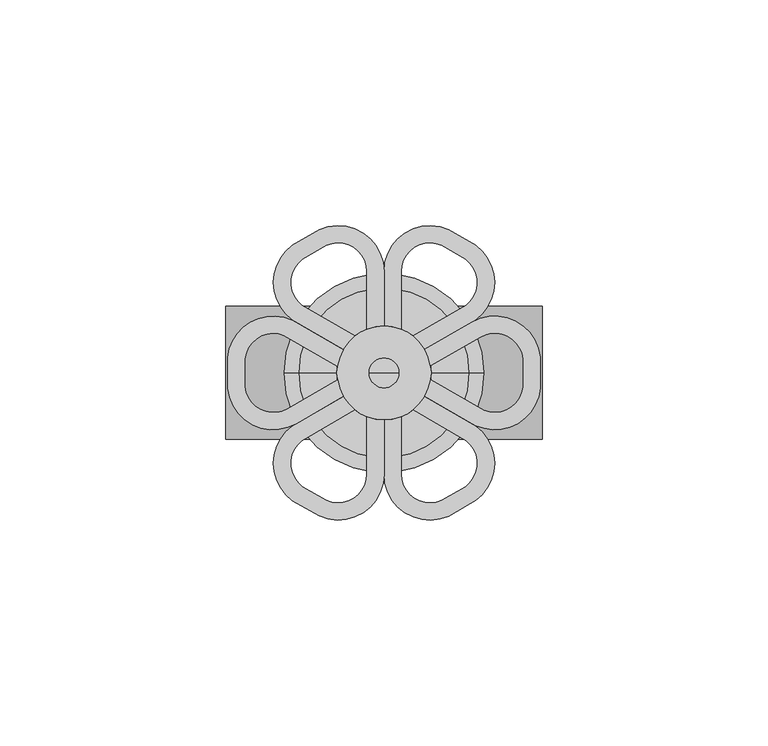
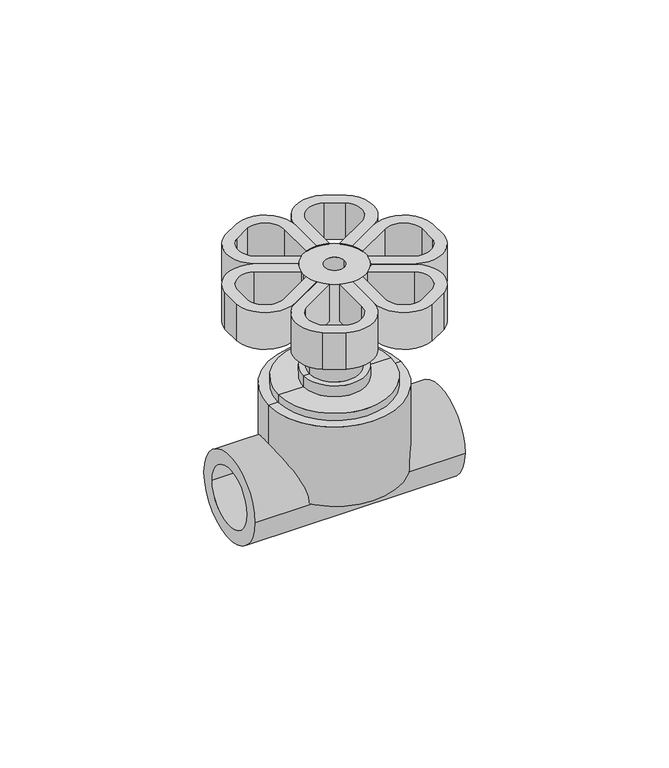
"""IFC4 building model written with IfcOpenShell, lengths in millimetres: valve geometry, Aquatherm - Screw Down Stop Globe Valve : NON-POTABLE."""

from ifc_helpers import new_model, si_unit, point, frame, origin, origin_with_axes, origin_2d, place, context, project, spatial, polyline, circle_curve, trimmed, segment, composite_curve, outline, extrude, source, transform, mapped, element, save
from ifc_brep_helpers import plane_surface, cylinder_surface, revolved_surface, advanced_brep


def valve_2058e438(model_context):
    return source(origin(), model_context, "Body", "SolidModel", [
        advanced_brep(
        [(19.445201, 11.226692, 57.15), (34.6099022, 3.4437403, 57.15), (34.6331331, -3.4380483, 57.15), (20.3544492, -11.6772462, 57.15), (9.0506259, -5.1509807, 57.15), (10.3130833, -1.4804518, 57.15), (22.0748393, -8.2711048, 57.15), (30.8247999, -3.0585974, 57.15), (30.8433147, 3.0701977, 57.15), (21.350201, 7.9271352, 57.15), (10.2985375, 1.5464544, 57.15), (9.0187886, 5.207, 57.15), (19.445201, 11.226692, 70.104), (9.0187886, 5.207, 70.104), (10.2985375, 1.5464544, 70.104), (21.350201, 7.9271352, 70.104), (30.8185012, 3.0677369, 70.104), (30.8419054, -3.0603017, 70.104), (22.0748393, -8.2711048, 70.104), (10.3130833, -1.4804518, 70.104), (9.0506259, -5.1509807, 70.104), (20.3544492, -11.6772462, 70.104), (34.6160276, -3.436344, 70.104), (34.6347157, 3.4462011, 70.104)],
        [
            (0, 1, circle_curve(frame((24.5166058, 2.4427611, 57.15), z_axis=(0.0, 0.0, -1.0), x_axis=(0.5000000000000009, -0.8660254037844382, 0.0)), 10.1428098)),
            (1, 2, circle_curve(frame((0.0065867, 0.0120369, 57.15), z_axis=(0.0, 0.0, -1.0), x_axis=(0.5000000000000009, -0.8660254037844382, 0.0)), 34.798)),
            (2, 3, circle_curve(frame((24.5231925, -2.4307241, 57.15), z_axis=(0.0, 0.0, -1.0), x_axis=(0.5000000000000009, -0.8660254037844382, 0.0)), 10.1428098)),
            (3, 4),
            (4, 5, circle_curve(frame((0.0065867, 0.0120369, 57.15), z_axis=(0.0, 0.0, 1.0), x_axis=(0.48061422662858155, 0.876932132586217, 0.0)), 10.414)),
            (5, 6),
            (6, 7, circle_curve(frame((24.5231925, -2.4307241, 57.15), z_axis=(0.0, 0.0, 1.0), x_axis=(0.5000000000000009, -0.8660254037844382, 0.0)), 6.3328098)),
            (7, 8, circle_curve(frame((0.0065867, 0.0120369, 57.15), z_axis=(0.0, 0.0, 1.0), x_axis=(0.5000000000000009, -0.8660254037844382, 0.0)), 30.988)),
            (8, 9, circle_curve(frame((24.5166058, 2.4427611, 57.15), z_axis=(0.0, 0.0, 1.0), x_axis=(0.5000000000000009, -0.8660254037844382, 0.0)), 6.3328098)),
            (9, 10),
            (10, 11, circle_curve(frame((0.0, 0.0, 57.15), z_axis=(0.0, 0.0, 1.0), x_axis=(0.5000000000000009, -0.8660254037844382, 0.0)), 10.414)),
            (11, 0),
            (12, 13),
            (13, 14, circle_curve(frame((0.0, 0.0, 70.104), z_axis=(0.0, 0.0, -1.0), x_axis=(0.5000000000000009, -0.8660254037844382, 0.0)), 10.414)),
            (14, 15),
            (15, 16, circle_curve(frame((24.5166058, 2.4427611, 70.104), z_axis=(0.0, 0.0, -1.0), x_axis=(0.5000000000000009, -0.8660254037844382, 0.0)), 6.3328098)),
            (16, 17, circle_curve(frame((0.0065867, 0.0120369, 70.104), z_axis=(0.0, 0.0, -1.0), x_axis=(0.5000000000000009, -0.8660254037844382, 0.0)), 30.988)),
            (17, 18, circle_curve(frame((24.5231925, -2.4307241, 70.104), z_axis=(0.0, 0.0, -1.0), x_axis=(0.5000000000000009, -0.8660254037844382, 0.0)), 6.3328098)),
            (18, 19),
            (19, 20, circle_curve(frame((0.0065867, 0.0120369, 70.104), z_axis=(0.0, 0.0, -1.0), x_axis=(0.48061422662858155, 0.876932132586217, 0.0)), 10.414)),
            (20, 21),
            (21, 22, circle_curve(frame((24.5231925, -2.4307241, 70.104), z_axis=(0.0, 0.0, 1.0), x_axis=(0.5000000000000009, -0.8660254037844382, 0.0)), 10.1428098)),
            (22, 23, circle_curve(frame((0.0065867, 0.0120369, 70.104), z_axis=(0.0, 0.0, 1.0), x_axis=(0.5000000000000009, -0.8660254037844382, 0.0)), 34.798)),
            (23, 12, circle_curve(frame((24.5166058, 2.4427611, 70.104), z_axis=(0.0, 0.0, 1.0), x_axis=(0.5000000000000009, -0.8660254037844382, 0.0)), 10.1428098)),
            (11, 13),
            (12, 0),
            (10, 14),
            (9, 15),
            (8, 16),
            (7, 17),
            (6, 18),
            (5, 19),
            (4, 20),
            (3, 21),
            (2, 22),
            (1, 23),
        ],
        [
            plane_surface(frame((29.5880107, -6.3411699, 57.15), z_axis=(0.0, 0.0, -1.0), x_axis=(-0.8660254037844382, -0.5000000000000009, 0.0))),
            plane_surface(frame((29.5880107, -6.3411699, 70.104), z_axis=(0.0, 0.0, 1.0), x_axis=(0.8660254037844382, 0.5000000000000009, 0.0))),
            plane_surface(frame((9.0187886, 5.207, 57.15), z_axis=(-0.4999999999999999, 0.8660254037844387, 0.0), x_axis=(0.0, 0.0, 1.0))),
            revolved_surface(polyline([(5.207000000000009, -9.018788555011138, 70.104), (5.207000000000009, -9.018788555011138, 57.15)]), (0.0, 0.0, 70.104), (0.0, 0.0, 1.0)),
            plane_surface(frame((21.350201, 7.9271352, 57.15), z_axis=(0.49999999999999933, -0.8660254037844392, 0.0), x_axis=(0.0, 0.0, 1.0))),
            revolved_surface(polyline([(27.683010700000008, -3.041613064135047, 70.104), (27.683010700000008, -3.041613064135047, 57.15)]), (24.5166058, 2.4427611, 70.104), (0.0, 0.0, 1.0)),
            revolved_surface(polyline([(15.500586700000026, -26.82435831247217, 70.104), (15.500586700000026, -26.82435831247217, 57.15)]), (0.0065867, 0.0120369, 70.104), (0.0, 0.0, 1.0)),
            revolved_surface(polyline([(27.689597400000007, -7.915098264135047, 70.104), (27.689597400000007, -7.915098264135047, 57.15)]), (24.5231925, -2.4307241, 70.104), (0.0, 0.0, 1.0)),
            plane_surface(frame((10.3130833, -1.4804518, 57.15), z_axis=(0.49999999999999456, 0.8660254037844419, 0.0), x_axis=(0.0, 0.0, 1.0))),
            revolved_surface(polyline([(5.011703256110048, 9.144408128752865, 70.104), (5.011703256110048, 9.144408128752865, 57.15)]), (0.0065867, 0.0120369, 70.104), (0.0, 0.0, 1.0)),
            plane_surface(frame((20.3544492, -11.6772462, 57.15), z_axis=(-0.4999999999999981, -0.8660254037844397, 0.0), x_axis=(0.0, 0.0, 1.0))),
            cylinder_surface(frame((24.5231925, -2.4307241, 70.104), z_axis=(0.0, 0.0, -1.0), x_axis=(0.5000000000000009, -0.8660254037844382, 0.0)), 10.1428098),
            cylinder_surface(frame((0.0065867, 0.0120369, 70.104), z_axis=(0.0, 0.0, -1.0), x_axis=(0.5000000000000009, -0.8660254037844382, 0.0)), 34.798),
            cylinder_surface(frame((24.5166058, 2.4427611, 70.104), z_axis=(0.0, 0.0, -1.0), x_axis=(0.5000000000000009, -0.8660254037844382, 0.0)), 10.1428098),
        ],
        [
            (0, [[1, 2, 3, 4, 5, 6, 7, 8, 9, 10, 11, 12]]),
            (1, [[13, 14, 15, 16, 17, 18, 19, 20, 21, 22, 23, 24]]),
            (2, [[-12, 25, -13, 26]]),
            (3, [[-11, 27, -14, -25]]),
            (4, [[-10, 28, -15, -27]]),
            (5, [[-9, 29, -16, -28]]),
            (6, [[-8, 30, -17, -29]]),
            (7, [[-7, 31, -18, -30]]),
            (8, [[-6, 32, -19, -31]]),
            (9, [[-5, 33, -20, -32]]),
            (10, [[-4, 34, -21, -33]]),
            (11, [[-3, 35, -22, -34]]),
            (12, [[-2, 36, -23, -35]]),
            (13, [[-1, -26, -24, -36]]),
        ],
    ),
        advanced_brep(
        [(-19.445201, -11.226692, 57.15), (-34.6099022, -3.4437403, 57.15), (-34.6331331, 3.4380483, 57.15), (-20.3544492, 11.6772462, 57.15), (-9.0506259, 5.1509807, 57.15), (-10.3130833, 1.4804518, 57.15), (-22.0748393, 8.2711048, 57.15), (-30.8247999, 3.0585974, 57.15), (-30.8433147, -3.0701977, 57.15), (-21.350201, -7.9271352, 57.15), (-10.2985375, -1.5464544, 57.15), (-9.0187886, -5.207, 57.15), (-19.445201, -11.226692, 70.104), (-9.0187886, -5.207, 70.104), (-10.2985375, -1.5464544, 70.104), (-21.350201, -7.9271352, 70.104), (-30.8185012, -3.0677369, 70.104), (-30.8419054, 3.0603017, 70.104), (-22.0748393, 8.2711048, 70.104), (-10.3130833, 1.4804518, 70.104), (-9.0506259, 5.1509807, 70.104), (-20.3544492, 11.6772462, 70.104), (-34.6160276, 3.436344, 70.104), (-34.6347157, -3.4462011, 70.104)],
        [
            (0, 1, circle_curve(frame((-24.5166058, -2.4427611, 57.15), z_axis=(0.0, 0.0, -1.0), x_axis=(-0.5000000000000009, 0.8660254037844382, 0.0)), 10.1428098)),
            (1, 2, circle_curve(frame((-0.0065867, -0.0120369, 57.15), z_axis=(0.0, 0.0, -1.0), x_axis=(-0.5000000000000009, 0.8660254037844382, 0.0)), 34.798)),
            (2, 3, circle_curve(frame((-24.5231925, 2.4307241, 57.15), z_axis=(0.0, 0.0, -1.0), x_axis=(-0.5000000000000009, 0.8660254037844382, 0.0)), 10.1428098)),
            (3, 4),
            (4, 5, circle_curve(frame((-0.0065867, -0.0120369, 57.15), z_axis=(0.0, 0.0, 1.0), x_axis=(-0.48061422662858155, -0.876932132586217, 0.0)), 10.414)),
            (5, 6),
            (6, 7, circle_curve(frame((-24.5231925, 2.4307241, 57.15), z_axis=(0.0, 0.0, 1.0), x_axis=(-0.5000000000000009, 0.8660254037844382, 0.0)), 6.3328098)),
            (7, 8, circle_curve(frame((-0.0065867, -0.0120369, 57.15), z_axis=(0.0, 0.0, 1.0), x_axis=(-0.5000000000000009, 0.8660254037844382, 0.0)), 30.988)),
            (8, 9, circle_curve(frame((-24.5166058, -2.4427611, 57.15), z_axis=(0.0, 0.0, 1.0), x_axis=(-0.5000000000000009, 0.8660254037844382, 0.0)), 6.3328098)),
            (9, 10),
            (10, 11, circle_curve(frame((0.0, 0.0, 57.15), z_axis=(0.0, 0.0, 1.0), x_axis=(-0.5000000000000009, 0.8660254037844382, 0.0)), 10.414)),
            (11, 0),
            (12, 13),
            (13, 14, circle_curve(frame((0.0, 0.0, 70.104), z_axis=(0.0, 0.0, -1.0), x_axis=(-0.5000000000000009, 0.8660254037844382, 0.0)), 10.414)),
            (14, 15),
            (15, 16, circle_curve(frame((-24.5166058, -2.4427611, 70.104), z_axis=(0.0, 0.0, -1.0), x_axis=(-0.5000000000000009, 0.8660254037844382, 0.0)), 6.3328098)),
            (16, 17, circle_curve(frame((-0.0065867, -0.0120369, 70.104), z_axis=(0.0, 0.0, -1.0), x_axis=(-0.5000000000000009, 0.8660254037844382, 0.0)), 30.988)),
            (17, 18, circle_curve(frame((-24.5231925, 2.4307241, 70.104), z_axis=(0.0, 0.0, -1.0), x_axis=(-0.5000000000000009, 0.8660254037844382, 0.0)), 6.3328098)),
            (18, 19),
            (19, 20, circle_curve(frame((-0.0065867, -0.0120369, 70.104), z_axis=(0.0, 0.0, -1.0), x_axis=(-0.48061422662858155, -0.876932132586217, 0.0)), 10.414)),
            (20, 21),
            (21, 22, circle_curve(frame((-24.5231925, 2.4307241, 70.104), z_axis=(0.0, 0.0, 1.0), x_axis=(-0.5000000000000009, 0.8660254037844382, 0.0)), 10.1428098)),
            (22, 23, circle_curve(frame((-0.0065867, -0.0120369, 70.104), z_axis=(0.0, 0.0, 1.0), x_axis=(-0.5000000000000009, 0.8660254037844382, 0.0)), 34.798)),
            (23, 12, circle_curve(frame((-24.5166058, -2.4427611, 70.104), z_axis=(0.0, 0.0, 1.0), x_axis=(-0.5000000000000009, 0.8660254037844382, 0.0)), 10.1428098)),
            (0, 12),
            (23, 1),
            (22, 2),
            (21, 3),
            (20, 4),
            (19, 5),
            (18, 6),
            (17, 7),
            (16, 8),
            (15, 9),
            (14, 10),
            (13, 11),
        ],
        [
            plane_surface(frame((-29.5880107, 6.3411699, 57.15), z_axis=(0.0, 0.0, -1.0), x_axis=(0.8660254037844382, 0.5000000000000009, 0.0))),
            plane_surface(frame((-29.5880107, 6.3411699, 70.104), z_axis=(0.0, 0.0, 1.0), x_axis=(-0.8660254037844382, -0.5000000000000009, 0.0))),
            cylinder_surface(frame((-24.5166058, -2.4427611, 70.104), z_axis=(0.0, 0.0, -1.0), x_axis=(-0.5000000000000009, 0.8660254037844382, 0.0)), 10.1428098),
            cylinder_surface(frame((-0.0065867, -0.0120369, 70.104), z_axis=(0.0, 0.0, -1.0), x_axis=(-0.5000000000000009, 0.8660254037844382, 0.0)), 34.798),
            cylinder_surface(frame((-24.5231925, 2.4307241, 70.104), z_axis=(0.0, 0.0, -1.0), x_axis=(-0.5000000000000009, 0.8660254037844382, 0.0)), 10.1428098),
            plane_surface(frame((-20.3544492, 11.6772462, 57.15), z_axis=(0.4999999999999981, 0.8660254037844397, 0.0), x_axis=(0.0, 0.0, 1.0))),
            revolved_surface(polyline([(-5.011703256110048, -9.144408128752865, 70.104), (-5.011703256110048, -9.144408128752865, 57.15)]), (-0.0065867, -0.0120369, 70.104), (0.0, 0.0, 1.0)),
            plane_surface(frame((-10.3130833, 1.4804518, 57.15), z_axis=(-0.49999999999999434, -0.8660254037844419, 0.0), x_axis=(0.0, 0.0, 1.0))),
            revolved_surface(polyline([(-27.689597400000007, 7.915098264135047, 70.104), (-27.689597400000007, 7.915098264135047, 57.15)]), (-24.5231925, 2.4307241, 70.104), (0.0, 0.0, 1.0)),
            revolved_surface(polyline([(-15.500586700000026, 26.82435831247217, 70.104), (-15.500586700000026, 26.82435831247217, 57.15)]), (-0.0065867, -0.0120369, 70.104), (0.0, 0.0, 1.0)),
            revolved_surface(polyline([(-27.683010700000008, 3.041613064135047, 70.104), (-27.683010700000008, 3.041613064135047, 57.15)]), (-24.5166058, -2.4427611, 70.104), (0.0, 0.0, 1.0)),
            plane_surface(frame((-21.350201, -7.9271352, 57.15), z_axis=(-0.49999999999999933, 0.866025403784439, 0.0), x_axis=(0.0, 0.0, 1.0))),
            revolved_surface(polyline([(-5.207000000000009, 9.018788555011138, 70.104), (-5.207000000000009, 9.018788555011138, 57.15)]), (0.0, 0.0, 70.104), (0.0, 0.0, 1.0)),
            plane_surface(frame((-9.0187886, -5.207, 57.15), z_axis=(0.49999999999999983, -0.8660254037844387, 0.0), x_axis=(0.0, 0.0, 1.0))),
        ],
        [
            (0, [[1, 2, 3, 4, 5, 6, 7, 8, 9, 10, 11, 12]]),
            (1, [[13, 14, 15, 16, 17, 18, 19, 20, 21, 22, 23, 24]]),
            (2, [[-1, 25, -24, 26]]),
            (3, [[-2, -26, -23, 27]]),
            (4, [[-3, -27, -22, 28]]),
            (5, [[-4, -28, -21, 29]]),
            (6, [[-5, -29, -20, 30]]),
            (7, [[-6, -30, -19, 31]]),
            (8, [[-7, -31, -18, 32]]),
            (9, [[-8, -32, -17, 33]]),
            (10, [[-9, -33, -16, 34]]),
            (11, [[-10, -34, -15, 35]]),
            (12, [[-11, -35, -14, 36]]),
            (13, [[-12, -36, -13, -25]]),
        ],
    ),
        advanced_brep(
        [(0.0, 22.453384, 57.15), (0.0, 10.414, 57.15), (-3.81, 9.6920223, 57.15), (-3.81, 22.453384, 57.15), (-12.7525125, 28.2234734, 57.15), (-18.0712517, 25.1797227, 57.15), (-18.2004066, 14.9818193, 57.15), (-6.4386506, 8.1911663, 57.15), (-8.9861931, 5.2625816, 57.15), (-20.2900164, 11.788847, 57.15), (-20.2839749, 28.2601873, 57.15), (-14.3328602, 31.7176442, 57.15), (0.0, 22.453384, 70.104), (-14.3225845, 31.6949246, 70.104), (-20.2940037, 28.2741489, 70.104), (-20.2900164, 11.788847, 70.104), (-8.9861931, 5.2625816, 70.104), (-6.4386506, 8.1911663, 70.104), (-18.2004066, 14.9818193, 70.104), (-18.061223, 25.165761, 70.104), (-12.7627882, 28.246193, 70.104), (-3.81, 22.453384, 70.104), (-3.81, 9.6920223, 70.104), (0.0, 10.414, 70.104)],
        [
            (0, 1),
            (1, 2, circle_curve(frame((0.0, 0.0, 57.15), z_axis=(0.0, 0.0, 1.0), x_axis=(-1.0, 0.0, 0.0)), 10.414)),
            (2, 3),
            (3, 4, circle_curve(frame((-10.1428098, 22.453384, 57.15), z_axis=(0.0, 0.0, 1.0), x_axis=(-1.0, 0.0, 0.0)), 6.3328098)),
            (4, 5, circle_curve(frame((0.0071309, 0.0117227, 57.15), z_axis=(0.0, 0.0, 1.0), x_axis=(-1.0, 0.0, 0.0)), 30.988)),
            (5, 6, circle_curve(frame((-14.3666651, 20.0223456, 57.15), z_axis=(0.0, 0.0, 1.0), x_axis=(-1.0, 0.0, 0.0)), 6.3328098)),
            (6, 7),
            (7, 8, circle_curve(frame((0.0071309, 0.0117227, 57.15), z_axis=(0.0, 0.0, 1.0), x_axis=(0.519138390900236, 0.8546901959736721, 0.0)), 10.414)),
            (8, 9),
            (9, 10, circle_curve(frame((-14.3666651, 20.0223456, 57.15), z_axis=(0.0, 0.0, -1.0), x_axis=(-1.0, 0.0, 0.0)), 10.1428098)),
            (10, 11, circle_curve(frame((0.0071309, 0.0117227, 57.15), z_axis=(0.0, 0.0, -1.0), x_axis=(-1.0, 0.0, 0.0)), 34.798)),
            (11, 0, circle_curve(frame((-10.1428098, 22.453384, 57.15), z_axis=(0.0, 0.0, -1.0), x_axis=(-1.0, 0.0, 0.0)), 10.1428098)),
            (12, 13, circle_curve(frame((-10.1428098, 22.453384, 70.104), z_axis=(0.0, 0.0, 1.0), x_axis=(-1.0, 0.0, 0.0)), 10.1428098)),
            (13, 14, circle_curve(frame((0.0071309, 0.0117227, 70.104), z_axis=(0.0, 0.0, 1.0), x_axis=(-1.0, 0.0, 0.0)), 34.798)),
            (14, 15, circle_curve(frame((-14.3666651, 20.0223456, 70.104), z_axis=(0.0, 0.0, 1.0), x_axis=(-1.0, 0.0, 0.0)), 10.1428098)),
            (15, 16),
            (16, 17, circle_curve(frame((0.0071309, 0.0117227, 70.104), z_axis=(0.0, 0.0, -1.0), x_axis=(0.519138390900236, 0.8546901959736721, 0.0)), 10.414)),
            (17, 18),
            (18, 19, circle_curve(frame((-14.3666651, 20.0223456, 70.104), z_axis=(0.0, 0.0, -1.0), x_axis=(-1.0, 0.0, 0.0)), 6.3328098)),
            (19, 20, circle_curve(frame((0.0071309, 0.0117227, 70.104), z_axis=(0.0, 0.0, -1.0), x_axis=(-1.0, 0.0, 0.0)), 30.988)),
            (20, 21, circle_curve(frame((-10.1428098, 22.453384, 70.104), z_axis=(0.0, 0.0, -1.0), x_axis=(-1.0, 0.0, 0.0)), 6.3328098)),
            (21, 22),
            (22, 23, circle_curve(frame((0.0, 0.0, 70.104), z_axis=(0.0, 0.0, -1.0), x_axis=(-1.0, 0.0, 0.0)), 10.414)),
            (23, 12),
            (11, 13),
            (12, 0),
            (10, 14),
            (9, 15),
            (8, 16),
            (7, 17),
            (6, 18),
            (5, 19),
            (4, 20),
            (3, 21),
            (2, 22),
            (1, 23),
        ],
        [
            plane_surface(frame((0.0, 8.255, 57.15), z_axis=(0.0, 0.0, -1.0), x_axis=(0.0, -1.0, 0.0))),
            plane_surface(frame((0.0, 8.255, 70.104), z_axis=(0.0, 0.0, 1.0), x_axis=(0.0, 1.0, 0.0))),
            cylinder_surface(frame((-10.1428098, 22.453384, 70.104), z_axis=(0.0, 0.0, -1.0), x_axis=(-1.0, 0.0, 0.0)), 10.1428098),
            cylinder_surface(frame((0.0071309, 0.0117227, 70.104), z_axis=(0.0, 0.0, -1.0), x_axis=(-1.0, 0.0, 0.0)), 34.798),
            cylinder_surface(frame((-14.3666651, 20.0223456, 70.104), z_axis=(0.0, 0.0, -1.0), x_axis=(-1.0, 0.0, 0.0)), 10.1428098),
            plane_surface(frame((-8.9861931, 5.2625816, 57.15), z_axis=(-0.5000000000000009, -0.8660254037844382, 0.0), x_axis=(0.0, 0.0, 1.0))),
            revolved_surface(polyline([(5.413438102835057, 8.912466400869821, 70.104), (5.413438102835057, 8.912466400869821, 57.14999999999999)]), (0.0071309, 0.0117227, 70.104), (0.0, 0.0, 1.0000000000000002)),
            plane_surface(frame((-18.2004066, 14.9818193, 57.15), z_axis=(0.5000000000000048, 0.8660254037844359, 0.0), x_axis=(0.0, 0.0, 1.0))),
            revolved_surface(polyline([(-20.6994749, 20.0223456, 70.104), (-20.6994749, 20.0223456, 57.15)]), (-14.3666651, 20.0223456, 70.104), (0.0, 0.0, 1.0)),
            revolved_surface(polyline([(-30.9808691, 0.0117227, 70.104), (-30.9808691, 0.0117227, 57.15)]), (0.0071309, 0.0117227, 70.104), (0.0, 0.0, 1.0)),
            revolved_surface(polyline([(-16.4756196, 22.453384, 70.104), (-16.4756196, 22.453384, 57.15)]), (-10.1428098, 22.453384, 70.104), (0.0, 0.0, 1.0)),
            plane_surface(frame((-3.81, 9.6920223, 57.15), z_axis=(-1.0, 0.0, 0.0), x_axis=(0.0, 0.0, 1.0))),
            revolved_surface(polyline([(-10.414, 0.0, 70.104), (-10.414, 0.0, 57.15)]), (0.0, 0.0, 70.104), (0.0, 0.0, 1.0)),
            plane_surface(frame((0.0, 22.453384, 57.15), z_axis=(1.0, 0.0, 0.0), x_axis=(0.0, 0.0, 1.0))),
        ],
        [
            (0, [[1, 2, 3, 4, 5, 6, 7, 8, 9, 10, 11, 12]]),
            (1, [[13, 14, 15, 16, 17, 18, 19, 20, 21, 22, 23, 24]]),
            (2, [[-12, 25, -13, 26]]),
            (3, [[-11, 27, -14, -25]]),
            (4, [[-10, 28, -15, -27]]),
            (5, [[-9, 29, -16, -28]]),
            (6, [[-8, 30, -17, -29]]),
            (7, [[-7, 31, -18, -30]]),
            (8, [[-6, 32, -19, -31]]),
            (9, [[-5, 33, -20, -32]]),
            (10, [[-4, 34, -21, -33]]),
            (11, [[-3, 35, -22, -34]]),
            (12, [[-2, 36, -23, -35]]),
            (13, [[-1, -26, -24, -36]]),
        ],
    ),
        advanced_brep(
        [(0.0, 22.453384, 57.15), (14.3225845, 31.6949246, 57.15), (20.2940037, 28.2741489, 57.15), (20.2900164, 11.788847, 57.15), (8.9861931, 5.2625816, 57.15), (6.4386506, 8.1911663, 57.15), (18.2004066, 14.9818193, 57.15), (18.061223, 25.165761, 57.15), (12.7627882, 28.246193, 57.15), (3.81, 22.453384, 57.15), (3.81, 9.6920223, 57.15), (0.0, 10.414, 57.15), (0.0, 22.453384, 70.104), (0.0, 10.414, 70.104), (3.81, 9.6920223, 70.104), (3.81, 22.453384, 70.104), (12.7525125, 28.2234734, 70.104), (18.0712517, 25.1797227, 70.104), (18.2004066, 14.9818193, 70.104), (6.4386506, 8.1911663, 70.104), (8.9861931, 5.2625816, 70.104), (20.2900164, 11.788847, 70.104), (20.2839749, 28.2601873, 70.104), (14.3328602, 31.7176442, 70.104)],
        [
            (0, 1, circle_curve(frame((10.1428098, 22.453384, 57.15), z_axis=(0.0, 0.0, -1.0), x_axis=(1.0, 0.0, 0.0)), 10.1428098)),
            (1, 2, circle_curve(frame((-0.0071309, 0.0117227, 57.15), z_axis=(0.0, 0.0, -1.0), x_axis=(1.0, 0.0, 0.0)), 34.798)),
            (2, 3, circle_curve(frame((14.3666651, 20.0223456, 57.15), z_axis=(0.0, 0.0, -1.0), x_axis=(1.0, 0.0, 0.0)), 10.1428098)),
            (3, 4),
            (4, 5, circle_curve(frame((-0.0071309, 0.0117227, 57.15), z_axis=(0.0, 0.0, 1.0), x_axis=(-0.519138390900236, 0.8546901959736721, 0.0)), 10.414)),
            (5, 6),
            (6, 7, circle_curve(frame((14.3666651, 20.0223456, 57.15), z_axis=(0.0, 0.0, 1.0), x_axis=(1.0, 0.0, 0.0)), 6.3328098)),
            (7, 8, circle_curve(frame((-0.0071309, 0.0117227, 57.15), z_axis=(0.0, 0.0, 1.0), x_axis=(1.0, 0.0, 0.0)), 30.988)),
            (8, 9, circle_curve(frame((10.1428098, 22.453384, 57.15), z_axis=(0.0, 0.0, 1.0), x_axis=(1.0, 0.0, 0.0)), 6.3328098)),
            (9, 10),
            (10, 11, circle_curve(frame((0.0, 0.0, 57.15), z_axis=(0.0, 0.0, 1.0), x_axis=(1.0, 0.0, 0.0)), 10.414)),
            (11, 0),
            (12, 13),
            (13, 14, circle_curve(frame((0.0, 0.0, 70.104), z_axis=(0.0, 0.0, -1.0), x_axis=(1.0, 0.0, 0.0)), 10.414)),
            (14, 15),
            (15, 16, circle_curve(frame((10.1428098, 22.453384, 70.104), z_axis=(0.0, 0.0, -1.0), x_axis=(1.0, 0.0, 0.0)), 6.3328098)),
            (16, 17, circle_curve(frame((-0.0071309, 0.0117227, 70.104), z_axis=(0.0, 0.0, -1.0), x_axis=(1.0, 0.0, 0.0)), 30.988)),
            (17, 18, circle_curve(frame((14.3666651, 20.0223456, 70.104), z_axis=(0.0, 0.0, -1.0), x_axis=(1.0, 0.0, 0.0)), 6.3328098)),
            (18, 19),
            (19, 20, circle_curve(frame((-0.0071309, 0.0117227, 70.104), z_axis=(0.0, 0.0, -1.0), x_axis=(-0.519138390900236, 0.8546901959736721, 0.0)), 10.414)),
            (20, 21),
            (21, 22, circle_curve(frame((14.3666651, 20.0223456, 70.104), z_axis=(0.0, 0.0, 1.0), x_axis=(1.0, 0.0, 0.0)), 10.1428098)),
            (22, 23, circle_curve(frame((-0.0071309, 0.0117227, 70.104), z_axis=(0.0, 0.0, 1.0), x_axis=(1.0, 0.0, 0.0)), 34.798)),
            (23, 12, circle_curve(frame((10.1428098, 22.453384, 70.104), z_axis=(0.0, 0.0, 1.0), x_axis=(1.0, 0.0, 0.0)), 10.1428098)),
            (11, 13),
            (12, 0),
            (10, 14),
            (9, 15),
            (8, 16),
            (7, 17),
            (6, 18),
            (5, 19),
            (4, 20),
            (3, 21),
            (2, 22),
            (1, 23),
        ],
        [
            plane_surface(frame((20.2856196, 22.453384, 57.15), z_axis=(0.0, 0.0, -1.0), x_axis=(0.0, -1.0, 0.0))),
            plane_surface(frame((20.2856196, 22.453384, 70.104), z_axis=(0.0, 0.0, 1.0), x_axis=(0.0, 1.0, 0.0))),
            plane_surface(frame((0.0, 10.414, 57.15), z_axis=(-1.0, 0.0, 0.0), x_axis=(0.0, 0.0, 1.0))),
            revolved_surface(polyline([(10.414, 0.0, 70.104), (10.414, 0.0, 57.15)]), (0.0, 0.0, 70.104), (0.0, 0.0, 1.0)),
            plane_surface(frame((3.81, 22.453384, 57.15), z_axis=(1.0, 0.0, 0.0), x_axis=(0.0, 0.0, 1.0))),
            revolved_surface(polyline([(16.4756196, 22.453384, 70.104), (16.4756196, 22.453384, 57.15)]), (10.1428098, 22.453384, 70.104), (0.0, 0.0, 1.0)),
            revolved_surface(polyline([(30.9808691, 0.0117227, 70.104), (30.9808691, 0.0117227, 57.15)]), (-0.0071309, 0.0117227, 70.104), (0.0, 0.0, 1.0)),
            revolved_surface(polyline([(20.6994749, 20.0223456, 70.104), (20.6994749, 20.0223456, 57.15)]), (14.3666651, 20.0223456, 70.104), (0.0, 0.0, 1.0)),
            plane_surface(frame((6.4386506, 8.1911663, 57.15), z_axis=(-0.5000000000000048, 0.8660254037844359, 0.0), x_axis=(0.0, 0.0, 1.0))),
            revolved_surface(polyline([(-5.413438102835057, 8.912466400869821, 70.104), (-5.413438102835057, 8.912466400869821, 57.14999999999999)]), (-0.0071309, 0.0117227, 70.104), (0.0, 0.0, 1.0000000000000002)),
            plane_surface(frame((20.2900164, 11.788847, 57.15), z_axis=(0.500000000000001, -0.866025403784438, 0.0), x_axis=(0.0, 0.0, 1.0))),
            cylinder_surface(frame((14.3666651, 20.0223456, 70.104), z_axis=(0.0, 0.0, -1.0), x_axis=(1.0, 0.0, 0.0)), 10.1428098),
            cylinder_surface(frame((-0.0071309, 0.0117227, 70.104), z_axis=(0.0, 0.0, -1.0), x_axis=(1.0, 0.0, 0.0)), 34.798),
            cylinder_surface(frame((10.1428098, 22.453384, 70.104), z_axis=(0.0, 0.0, -1.0), x_axis=(1.0, 0.0, 0.0)), 10.1428098),
        ],
        [
            (0, [[1, 2, 3, 4, 5, 6, 7, 8, 9, 10, 11, 12]]),
            (1, [[13, 14, 15, 16, 17, 18, 19, 20, 21, 22, 23, 24]]),
            (2, [[-12, 25, -13, 26]]),
            (3, [[-11, 27, -14, -25]]),
            (4, [[-10, 28, -15, -27]]),
            (5, [[-9, 29, -16, -28]]),
            (6, [[-8, 30, -17, -29]]),
            (7, [[-7, 31, -18, -30]]),
            (8, [[-6, 32, -19, -31]]),
            (9, [[-5, 33, -20, -32]]),
            (10, [[-4, 34, -21, -33]]),
            (11, [[-3, 35, -22, -34]]),
            (12, [[-2, 36, -23, -35]]),
            (13, [[-1, -26, -24, -36]]),
        ],
    ),
        advanced_brep(
        [(0.0, -22.453384, 57.15), (-14.3225845, -31.6949246, 57.15), (-20.2940037, -28.2741489, 57.15), (-20.2900164, -11.788847, 57.15), (-8.9861931, -5.2625816, 57.15), (-6.4386506, -8.1911663, 57.15), (-18.2004066, -14.9818193, 57.15), (-18.061223, -25.165761, 57.15), (-12.7627882, -28.246193, 57.15), (-3.81, -22.453384, 57.15), (-3.81, -9.6920223, 57.15), (0.0, -10.414, 57.15), (0.0, -22.453384, 70.104), (0.0, -10.414, 70.104), (-3.81, -9.6920223, 70.104), (-3.81, -22.453384, 70.104), (-12.7525125, -28.2234734, 70.104), (-18.0712517, -25.1797227, 70.104), (-18.2004066, -14.9818193, 70.104), (-6.4386506, -8.1911663, 70.104), (-8.9861931, -5.2625816, 70.104), (-20.2900164, -11.788847, 70.104), (-20.2839749, -28.2601873, 70.104), (-14.3328602, -31.7176442, 70.104)],
        [
            (0, 1, circle_curve(frame((-10.1428098, -22.453384, 57.15), z_axis=(0.0, 0.0, -1.0), x_axis=(-1.0, 0.0, 0.0)), 10.1428098)),
            (1, 2, circle_curve(frame((0.0071309, -0.0117227, 57.15), z_axis=(0.0, 0.0, -1.0), x_axis=(-1.0, 0.0, 0.0)), 34.798)),
            (2, 3, circle_curve(frame((-14.3666651, -20.0223456, 57.15), z_axis=(0.0, 0.0, -1.0), x_axis=(-1.0, 0.0, 0.0)), 10.1428098)),
            (3, 4),
            (4, 5, circle_curve(frame((0.0071309, -0.0117227, 57.15), z_axis=(0.0, 0.0, 1.0), x_axis=(0.519138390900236, -0.8546901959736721, 0.0)), 10.414)),
            (5, 6),
            (6, 7, circle_curve(frame((-14.3666651, -20.0223456, 57.15), z_axis=(0.0, 0.0, 1.0), x_axis=(-1.0, 0.0, 0.0)), 6.3328098)),
            (7, 8, circle_curve(frame((0.0071309, -0.0117227, 57.15), z_axis=(0.0, 0.0, 1.0), x_axis=(-1.0, 0.0, 0.0)), 30.988)),
            (8, 9, circle_curve(frame((-10.1428098, -22.453384, 57.15), z_axis=(0.0, 0.0, 1.0), x_axis=(-1.0, 0.0, 0.0)), 6.3328098)),
            (9, 10),
            (10, 11, circle_curve(frame((0.0, 0.0, 57.15), z_axis=(0.0, 0.0, 1.0), x_axis=(-1.0, 0.0, 0.0)), 10.414)),
            (11, 0),
            (12, 13),
            (13, 14, circle_curve(frame((0.0, 0.0, 70.104), z_axis=(0.0, 0.0, -1.0), x_axis=(-1.0, 0.0, 0.0)), 10.414)),
            (14, 15),
            (15, 16, circle_curve(frame((-10.1428098, -22.453384, 70.104), z_axis=(0.0, 0.0, -1.0), x_axis=(-1.0, 0.0, 0.0)), 6.3328098)),
            (16, 17, circle_curve(frame((0.0071309, -0.0117227, 70.104), z_axis=(0.0, 0.0, -1.0), x_axis=(-1.0, 0.0, 0.0)), 30.988)),
            (17, 18, circle_curve(frame((-14.3666651, -20.0223456, 70.104), z_axis=(0.0, 0.0, -1.0), x_axis=(-1.0, 0.0, 0.0)), 6.3328098)),
            (18, 19),
            (19, 20, circle_curve(frame((0.0071309, -0.0117227, 70.104), z_axis=(0.0, 0.0, -1.0), x_axis=(0.519138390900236, -0.8546901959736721, 0.0)), 10.414)),
            (20, 21),
            (21, 22, circle_curve(frame((-14.3666651, -20.0223456, 70.104), z_axis=(0.0, 0.0, 1.0), x_axis=(-1.0, 0.0, 0.0)), 10.1428098)),
            (22, 23, circle_curve(frame((0.0071309, -0.0117227, 70.104), z_axis=(0.0, 0.0, 1.0), x_axis=(-1.0, 0.0, 0.0)), 34.798)),
            (23, 12, circle_curve(frame((-10.1428098, -22.453384, 70.104), z_axis=(0.0, 0.0, 1.0), x_axis=(-1.0, 0.0, 0.0)), 10.1428098)),
            (0, 12),
            (23, 1),
            (22, 2),
            (21, 3),
            (20, 4),
            (19, 5),
            (18, 6),
            (17, 7),
            (16, 8),
            (15, 9),
            (14, 10),
            (13, 11),
        ],
        [
            plane_surface(frame((-20.2856196, -22.453384, 57.15), z_axis=(0.0, 0.0, -1.0), x_axis=(0.0, 1.0, 0.0))),
            plane_surface(frame((-20.2856196, -22.453384, 70.104), z_axis=(0.0, 0.0, 1.0), x_axis=(0.0, -1.0, 0.0))),
            cylinder_surface(frame((-10.1428098, -22.453384, 70.104), z_axis=(0.0, 0.0, -1.0), x_axis=(-1.0, 0.0, 0.0)), 10.1428098),
            cylinder_surface(frame((0.0071309, -0.0117227, 70.104), z_axis=(0.0, 0.0, -1.0), x_axis=(-1.0, 0.0, 0.0)), 34.798),
            cylinder_surface(frame((-14.3666651, -20.0223456, 70.104), z_axis=(0.0, 0.0, -1.0), x_axis=(-1.0, 0.0, 0.0)), 10.1428098),
            plane_surface(frame((-20.2900164, -11.788847, 57.15), z_axis=(-0.500000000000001, 0.866025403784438, 0.0), x_axis=(0.0, 0.0, 1.0))),
            revolved_surface(polyline([(5.413438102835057, -8.912466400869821, 70.104), (5.413438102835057, -8.912466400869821, 57.14999999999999)]), (0.0071309, -0.0117227, 70.104), (0.0, 0.0, 1.0000000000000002)),
            plane_surface(frame((-6.4386506, -8.1911663, 57.15), z_axis=(0.5000000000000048, -0.8660254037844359, 0.0), x_axis=(0.0, 0.0, 1.0))),
            revolved_surface(polyline([(-20.6994749, -20.0223456, 70.104), (-20.6994749, -20.0223456, 57.15)]), (-14.3666651, -20.0223456, 70.104), (0.0, 0.0, 1.0)),
            revolved_surface(polyline([(-30.9808691, -0.0117227, 70.104), (-30.9808691, -0.0117227, 57.15)]), (0.0071309, -0.0117227, 70.104), (0.0, 0.0, 1.0)),
            revolved_surface(polyline([(-16.4756196, -22.453384, 70.104), (-16.4756196, -22.453384, 57.15)]), (-10.1428098, -22.453384, 70.104), (0.0, 0.0, 1.0)),
            plane_surface(frame((-3.81, -22.453384, 57.15), z_axis=(-1.0, 0.0, 0.0), x_axis=(0.0, 0.0, 1.0))),
            revolved_surface(polyline([(-10.414, 0.0, 70.104), (-10.414, 0.0, 57.15)]), (0.0, 0.0, 70.104), (0.0, 0.0, 1.0)),
            plane_surface(frame((0.0, -10.414, 57.15), z_axis=(1.0, 0.0, 0.0), x_axis=(0.0, 0.0, 1.0))),
        ],
        [
            (0, [[1, 2, 3, 4, 5, 6, 7, 8, 9, 10, 11, 12]]),
            (1, [[13, 14, 15, 16, 17, 18, 19, 20, 21, 22, 23, 24]]),
            (2, [[-1, 25, -24, 26]]),
            (3, [[-2, -26, -23, 27]]),
            (4, [[-3, -27, -22, 28]]),
            (5, [[-4, -28, -21, 29]]),
            (6, [[-5, -29, -20, 30]]),
            (7, [[-6, -30, -19, 31]]),
            (8, [[-7, -31, -18, 32]]),
            (9, [[-8, -32, -17, 33]]),
            (10, [[-9, -33, -16, 34]]),
            (11, [[-10, -34, -15, 35]]),
            (12, [[-11, -35, -14, 36]]),
            (13, [[-12, -36, -13, -25]]),
        ],
    ),
        advanced_brep(
        [(0.0, -22.453384, 57.15), (0.0, -10.414, 57.15), (3.81, -9.6920223, 57.15), (3.81, -22.453384, 57.15), (12.7525125, -28.2234734, 57.15), (18.0712517, -25.1797227, 57.15), (18.2004066, -14.9818193, 57.15), (6.4386506, -8.1911663, 57.15), (8.9861931, -5.2625816, 57.15), (20.2900164, -11.788847, 57.15), (20.2839749, -28.2601873, 57.15), (14.3328602, -31.7176442, 57.15), (0.0, -22.453384, 70.104), (14.3225845, -31.6949246, 70.104), (20.2940037, -28.2741489, 70.104), (20.2900164, -11.788847, 70.104), (8.9861931, -5.2625816, 70.104), (6.4386506, -8.1911663, 70.104), (18.2004066, -14.9818193, 70.104), (18.061223, -25.165761, 70.104), (12.7627882, -28.246193, 70.104), (3.81, -22.453384, 70.104), (3.81, -9.6920223, 70.104), (0.0, -10.414, 70.104)],
        [
            (0, 1),
            (1, 2, circle_curve(frame((0.0, 0.0, 57.15), z_axis=(0.0, 0.0, 1.0), x_axis=(1.0, 0.0, 0.0)), 10.414)),
            (2, 3),
            (3, 4, circle_curve(frame((10.1428098, -22.453384, 57.15), z_axis=(0.0, 0.0, 1.0), x_axis=(1.0, 0.0, 0.0)), 6.3328098)),
            (4, 5, circle_curve(frame((-0.0071309, -0.0117227, 57.15), z_axis=(0.0, 0.0, 1.0), x_axis=(1.0, 0.0, 0.0)), 30.988)),
            (5, 6, circle_curve(frame((14.3666651, -20.0223456, 57.15), z_axis=(0.0, 0.0, 1.0), x_axis=(1.0, 0.0, 0.0)), 6.3328098)),
            (6, 7),
            (7, 8, circle_curve(frame((-0.0071309, -0.0117227, 57.15), z_axis=(0.0, 0.0, 1.0), x_axis=(-0.519138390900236, -0.8546901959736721, 0.0)), 10.414)),
            (8, 9),
            (9, 10, circle_curve(frame((14.3666651, -20.0223456, 57.15), z_axis=(0.0, 0.0, -1.0), x_axis=(1.0, 0.0, 0.0)), 10.1428098)),
            (10, 11, circle_curve(frame((-0.0071309, -0.0117227, 57.15), z_axis=(0.0, 0.0, -1.0), x_axis=(1.0, 0.0, 0.0)), 34.798)),
            (11, 0, circle_curve(frame((10.1428098, -22.453384, 57.15), z_axis=(0.0, 0.0, -1.0), x_axis=(1.0, 0.0, 0.0)), 10.1428098)),
            (12, 13, circle_curve(frame((10.1428098, -22.453384, 70.104), z_axis=(0.0, 0.0, 1.0), x_axis=(1.0, 0.0, 0.0)), 10.1428098)),
            (13, 14, circle_curve(frame((-0.0071309, -0.0117227, 70.104), z_axis=(0.0, 0.0, 1.0), x_axis=(1.0, 0.0, 0.0)), 34.798)),
            (14, 15, circle_curve(frame((14.3666651, -20.0223456, 70.104), z_axis=(0.0, 0.0, 1.0), x_axis=(1.0, 0.0, 0.0)), 10.1428098)),
            (15, 16),
            (16, 17, circle_curve(frame((-0.0071309, -0.0117227, 70.104), z_axis=(0.0, 0.0, -1.0), x_axis=(-0.519138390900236, -0.8546901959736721, 0.0)), 10.414)),
            (17, 18),
            (18, 19, circle_curve(frame((14.3666651, -20.0223456, 70.104), z_axis=(0.0, 0.0, -1.0), x_axis=(1.0, 0.0, 0.0)), 6.3328098)),
            (19, 20, circle_curve(frame((-0.0071309, -0.0117227, 70.104), z_axis=(0.0, 0.0, -1.0), x_axis=(1.0, 0.0, 0.0)), 30.988)),
            (20, 21, circle_curve(frame((10.1428098, -22.453384, 70.104), z_axis=(0.0, 0.0, -1.0), x_axis=(1.0, 0.0, 0.0)), 6.3328098)),
            (21, 22),
            (22, 23, circle_curve(frame((0.0, 0.0, 70.104), z_axis=(0.0, 0.0, -1.0), x_axis=(1.0, 0.0, 0.0)), 10.414)),
            (23, 12),
            (0, 12),
            (23, 1),
            (22, 2),
            (21, 3),
            (20, 4),
            (19, 5),
            (18, 6),
            (17, 7),
            (16, 8),
            (15, 9),
            (14, 10),
            (13, 11),
        ],
        [
            plane_surface(frame((0.0, -8.255, 57.15), z_axis=(0.0, 0.0, -1.0), x_axis=(0.0, 1.0, 0.0))),
            plane_surface(frame((0.0, -8.255, 70.104), z_axis=(0.0, 0.0, 1.0), x_axis=(0.0, -1.0, 0.0))),
            plane_surface(frame((0.0, -22.453384, 57.15), z_axis=(-1.0, 0.0, 0.0), x_axis=(0.0, 0.0, 1.0))),
            revolved_surface(polyline([(10.414, 0.0, 70.104), (10.414, 0.0, 57.15)]), (0.0, 0.0, 70.104), (0.0, 0.0, 1.0)),
            plane_surface(frame((3.81, -9.6920223, 57.15), z_axis=(1.0, 0.0, 0.0), x_axis=(0.0, 0.0, 1.0))),
            revolved_surface(polyline([(16.4756196, -22.453384, 70.104), (16.4756196, -22.453384, 57.15)]), (10.1428098, -22.453384, 70.104), (0.0, 0.0, 1.0)),
            revolved_surface(polyline([(30.9808691, -0.0117227, 70.104), (30.9808691, -0.0117227, 57.15)]), (-0.0071309, -0.0117227, 70.104), (0.0, 0.0, 1.0)),
            revolved_surface(polyline([(20.6994749, -20.0223456, 70.104), (20.6994749, -20.0223456, 57.15)]), (14.3666651, -20.0223456, 70.104), (0.0, 0.0, 1.0)),
            plane_surface(frame((18.2004066, -14.9818193, 57.15), z_axis=(-0.5000000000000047, -0.866025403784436, 0.0), x_axis=(0.0, 0.0, 1.0))),
            revolved_surface(polyline([(-5.413438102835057, -8.912466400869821, 70.104), (-5.413438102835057, -8.912466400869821, 57.14999999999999)]), (-0.0071309, -0.0117227, 70.104), (0.0, 0.0, 1.0000000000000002)),
            plane_surface(frame((8.9861931, -5.2625816, 57.15), z_axis=(0.5000000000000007, 0.8660254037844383, 0.0), x_axis=(0.0, 0.0, 1.0))),
            cylinder_surface(frame((14.3666651, -20.0223456, 70.104), z_axis=(0.0, 0.0, -1.0), x_axis=(1.0, 0.0, 0.0)), 10.1428098),
            cylinder_surface(frame((-0.0071309, -0.0117227, 70.104), z_axis=(0.0, 0.0, -1.0), x_axis=(1.0, 0.0, 0.0)), 34.798),
            cylinder_surface(frame((10.1428098, -22.453384, 70.104), z_axis=(0.0, 0.0, -1.0), x_axis=(1.0, 0.0, 0.0)), 10.1428098),
        ],
        [
            (0, [[1, 2, 3, 4, 5, 6, 7, 8, 9, 10, 11, 12]]),
            (1, [[13, 14, 15, 16, 17, 18, 19, 20, 21, 22, 23, 24]]),
            (2, [[-1, 25, -24, 26]]),
            (3, [[-2, -26, -23, 27]]),
            (4, [[-3, -27, -22, 28]]),
            (5, [[-4, -28, -21, 29]]),
            (6, [[-5, -29, -20, 30]]),
            (7, [[-6, -30, -19, 31]]),
            (8, [[-7, -31, -18, 32]]),
            (9, [[-8, -32, -17, 33]]),
            (10, [[-9, -33, -16, 34]]),
            (11, [[-10, -34, -15, 35]]),
            (12, [[-11, -35, -14, 36]]),
            (13, [[-12, -36, -13, -25]]),
        ],
    ),
        extrude(outline(composite_curve([segment(trimmed(circle_curve(origin_2d(), 10.414), [point((-10.414, 0.0))], [point((10.414, 0.0))], False, "CARTESIAN"), True, "CONTINUOUS"), segment(trimmed(circle_curve(origin_2d(), 10.414), [point((10.414, 0.0))], [point((-10.414, 0.0))], False, "CARTESIAN"), True, "CONTINUOUS")], self_intersect=False), holes=[composite_curve([segment(trimmed(circle_curve(origin_2d(), 3.302), [point((-3.302, 0.0))], [point((3.302, 0.0))], True, "CARTESIAN"), True, "CONTINUOUS"), segment(trimmed(circle_curve(origin_2d(), 3.302), [point((3.302, 0.0))], [point((-3.302, 0.0))], True, "CARTESIAN"), True, "CONTINUOUS")], self_intersect=False)]), frame((0.0, 0.0, 55.118), z_axis=(0.0, 0.0, 1.0), x_axis=(1.0, 0.0, 0.0)), (0.0, 0.0, 1.0), 14.986),
        advanced_brep(
        [(-18.796, 0.0, 30.48), (18.796, 0.0, 30.48), (18.796, 0.0, 27.94), (-18.796, 0.0, 27.94), (-10.445896, 0.0, 30.48), (10.445896, 0.0, 30.48), (-10.445896, 0.0, 34.29), (10.445896, 0.0, 34.29), (-8.413896, 0.0, 34.29), (8.413896, 0.0, 34.29), (-8.413896, 0.0, 48.26), (8.413896, 0.0, 48.26), (-5.619896, 0.0, 48.26), (5.619896, 0.0, 48.26), (-5.619896, 0.0, 55.118), (5.619896, 0.0, 55.118), (0.0, 0.0, 55.118), (0.0, 0.0, 27.94)],
        [
            (0, 1, circle_curve(frame((0.0, 0.0, 30.48), z_axis=(0.0, 0.0, -1.0), x_axis=(1.0, 0.0, 0.0)), 18.796)),
            (1, 2),
            (2, 3, circle_curve(frame((0.0, 0.0, 27.94), z_axis=(0.0, 0.0, 1.0), x_axis=(1.0, 0.0, 0.0)), 18.796)),
            (3, 0),
            (1, 0, circle_curve(frame((0.0, 0.0, 30.48), z_axis=(0.0, 0.0, -1.0), x_axis=(1.0, 0.0, 0.0)), 18.796)),
            (3, 2, circle_curve(frame((0.0, 0.0, 27.94), z_axis=(0.0, 0.0, 1.0), x_axis=(1.0, 0.0, 0.0)), 18.796)),
            (4, 5, circle_curve(frame((0.0, 0.0, 30.48), z_axis=(0.0, 0.0, -1.0), x_axis=(1.0, 0.0, 0.0)), 10.445896)),
            (5, 1),
            (0, 4),
            (5, 4, circle_curve(frame((0.0, 0.0, 30.48), z_axis=(0.0, 0.0, -1.0), x_axis=(1.0, 0.0, 0.0)), 10.445896)),
            (6, 7, circle_curve(frame((0.0, 0.0, 34.29), z_axis=(0.0, 0.0, -1.0), x_axis=(1.0, 0.0, 0.0)), 10.445896)),
            (7, 5),
            (4, 6),
            (7, 6, circle_curve(frame((0.0, 0.0, 34.29), z_axis=(0.0, 0.0, -1.0), x_axis=(1.0, 0.0, 0.0)), 10.445896)),
            (8, 9, circle_curve(frame((0.0, 0.0, 34.29), z_axis=(0.0, 0.0, -1.0), x_axis=(1.0, 0.0, 0.0)), 8.413896)),
            (9, 7),
            (6, 8),
            (9, 8, circle_curve(frame((0.0, 0.0, 34.29), z_axis=(0.0, 0.0, -1.0), x_axis=(1.0, 0.0, 0.0)), 8.413896)),
            (10, 11, circle_curve(frame((0.0, 0.0, 48.26), z_axis=(0.0, 0.0, -1.0), x_axis=(1.0, 0.0, 0.0)), 8.413896)),
            (11, 9),
            (8, 10),
            (11, 10, circle_curve(frame((0.0, 0.0, 48.26), z_axis=(0.0, 0.0, -1.0), x_axis=(1.0, 0.0, 0.0)), 8.413896)),
            (12, 13, circle_curve(frame((0.0, 0.0, 48.26), z_axis=(0.0, 0.0, -1.0), x_axis=(1.0, 0.0, 0.0)), 5.619896)),
            (13, 11),
            (10, 12),
            (13, 12, circle_curve(frame((0.0, 0.0, 48.26), z_axis=(0.0, 0.0, -1.0), x_axis=(1.0, 0.0, 0.0)), 5.619896)),
            (14, 15, circle_curve(frame((0.0, 0.0, 55.118), z_axis=(0.0, 0.0, -1.0), x_axis=(1.0, 0.0, 0.0)), 5.619896)),
            (15, 13),
            (12, 14),
            (15, 14, circle_curve(frame((0.0, 0.0, 55.118), z_axis=(0.0, 0.0, -1.0), x_axis=(1.0, 0.0, 0.0)), 5.619896)),
            (16, 15),
            (14, 16),
            (2, 17),
            (17, 3),
        ],
        [
            cylinder_surface(frame((0.0, 0.0, 63.627), z_axis=(0.0, 0.0, 1.0), x_axis=(1.0, 0.0, 0.0)), 18.796),
            plane_surface(frame((0.0, 0.0, 30.48), z_axis=(0.0, 0.0, 1.0), x_axis=(1.0, 0.0, 0.0))),
            cylinder_surface(frame((0.0, 0.0, 63.627), z_axis=(0.0, 0.0, 1.0), x_axis=(1.0, 0.0, 0.0)), 10.445896),
            plane_surface(frame((0.0, 0.0, 34.29), z_axis=(0.0, 0.0, 1.0), x_axis=(1.0, 0.0, 0.0))),
            cylinder_surface(frame((0.0, 0.0, 63.627), z_axis=(0.0, 0.0, 1.0), x_axis=(1.0, 0.0, 0.0)), 8.413896),
            plane_surface(frame((0.0, 0.0, 48.26), z_axis=(0.0, 0.0, 1.0), x_axis=(1.0, 0.0, 0.0))),
            cylinder_surface(frame((0.0, 0.0, 63.627), z_axis=(0.0, 0.0, 1.0), x_axis=(1.0, 0.0, 0.0)), 5.619896),
            plane_surface(frame((0.0, 0.0, 55.118), z_axis=(0.0, 0.0, 1.0), x_axis=(1.0, 0.0, 0.0))),
            plane_surface(frame((0.0, 0.0, 27.94), z_axis=(0.0, 0.0, -1.0), x_axis=(1.0, 0.0, 0.0))),
        ],
        [
            (0, [[1, 2, 3, 4]]),
            (0, [[5, -4, 6, -2]]),
            (1, [[7, 8, -1, 9]]),
            (1, [[10, -9, -5, -8]]),
            (2, [[11, 12, -7, 13]]),
            (2, [[14, -13, -10, -12]]),
            (3, [[15, 16, -11, 17]]),
            (3, [[18, -17, -14, -16]]),
            (4, [[19, 20, -15, 21]]),
            (4, [[22, -21, -18, -20]]),
            (5, [[23, 24, -19, 25]]),
            (5, [[26, -25, -22, -24]]),
            (6, [[27, 28, -23, 29]]),
            (6, [[30, -29, -26, -28]]),
            (7, [[31, -27, 32]]),
            (7, [[-32, -30, -31]]),
            (8, [[-3, 33, 34]]),
            (8, [[-6, -34, -33]]),
        ],
    ),
        advanced_brep(
        [(-22.098, 0.0, 27.94), (22.098, 0.0, 27.94), (22.098, 0.0, 0.0), (-22.098, 0.0, 0.0), (0.0, 0.0, 27.94), (0.0, 0.0, 0.0)],
        [
            (0, 1, circle_curve(frame((0.0, 0.0, 27.94), z_axis=(0.0, 0.0, -1.0), x_axis=(1.0, 0.0, 0.0)), 22.098)),
            (1, 2),
            (2, 3, circle_curve(origin_with_axes(), 22.098)),
            (3, 0),
            (1, 0, circle_curve(frame((0.0, 0.0, 27.94), z_axis=(0.0, 0.0, -1.0), x_axis=(1.0, 0.0, 0.0)), 22.098)),
            (3, 2, circle_curve(origin_with_axes(), 22.098)),
            (4, 1),
            (0, 4),
            (2, 5),
            (5, 3),
        ],
        [
            cylinder_surface(frame((0.0, 0.0, 27.94), z_axis=(0.0, 0.0, 1.0), x_axis=(1.0, 0.0, 0.0)), 22.098),
            plane_surface(frame((0.0, 0.0, 27.94), z_axis=(0.0, 0.0, 1.0), x_axis=(1.0, 0.0, 0.0))),
            plane_surface(frame((0.0, 0.0, 0.0), z_axis=(0.0, 0.0, -1.0), x_axis=(1.0, 0.0, 0.0))),
        ],
        [
            (0, [[1, 2, 3, 4]]),
            (0, [[5, -4, 6, -2]]),
            (1, [[7, -1, 8]]),
            (1, [[-8, -5, -7]]),
            (2, [[-3, 9, 10]]),
            (2, [[-6, -10, -9]]),
        ],
    ),
        extrude(outline(composite_curve([segment(trimmed(circle_curve(origin_2d(), 14.732), [point((-14.732, 0.0))], [point((14.732, 0.0))], False, "CARTESIAN"), True, "CONTINUOUS"), segment(trimmed(circle_curve(origin_2d(), 14.732), [point((14.732, 0.0))], [point((-14.732, 0.0))], False, "CARTESIAN"), True, "CONTINUOUS")], self_intersect=False), holes=[composite_curve([segment(trimmed(circle_curve(origin_2d(), 10.033), [point((-10.033, 0.0))], [point((10.033, 0.0))], True, "CARTESIAN"), True, "CONTINUOUS"), segment(trimmed(circle_curve(origin_2d(), 10.033), [point((10.033, 0.0))], [point((-10.033, 0.0))], True, "CARTESIAN"), True, "CONTINUOUS")], self_intersect=False)]), frame((-35.052, 0.0, 0.0), z_axis=(1.0, 0.0, 0.0), x_axis=(0.0, 1.0, 0.0)), (0.0, 0.0, 1.0), 70.104),
    ])


if __name__ == "__main__":
    model = new_model("IFC4")
    model_context = context("Model", 3, world=origin())
    ifc_project = project(units=[si_unit("LENGTHUNIT", "METRE", prefix="MILLI")], contexts=[model_context])
    site = spatial("IfcSite", under=ifc_project)
    building = spatial("IfcBuilding", under=site)
    placement = place(None, origin())
    valve_shape = valve_2058e438(model_context)
    element("IfcValve", 1, ObjectType="Aquatherm - Screw Down Stop Globe Valve : NON-POTABLE", at=placement, inside=building, context=model_context, shape_type="MappedRepresentation", body=[
        mapped(valve_shape, transform((0.0, 0.0, 0.0), x_axis=(1.0, 0.0, 0.0), y_axis=(0.0, 1.0, 0.0), z_axis=(0.0, 0.0, 1.0))),
    ])
    save(model, "model.ifc")
